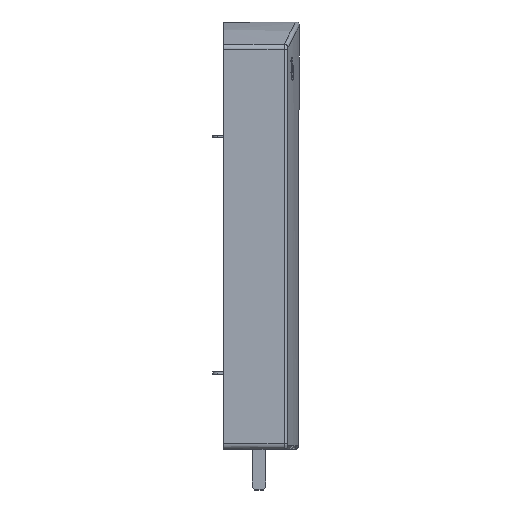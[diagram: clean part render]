
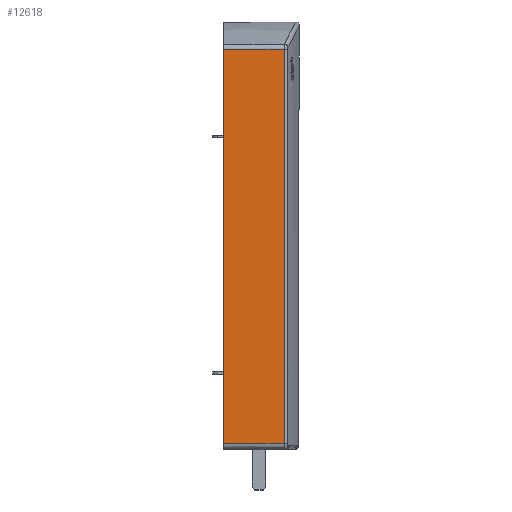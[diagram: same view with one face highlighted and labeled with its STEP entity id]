
A CAD part, top view. The second image highlights one B-rep face of the part: STEP entity #12618.
In plain terms, the highlighted planar face has unit normal (0, 0, 1).
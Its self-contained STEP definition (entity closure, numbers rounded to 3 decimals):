
#932 = EDGE_LOOP ( 'NONE', ( #12402, #12403, #12404, #12405 ) ) ;
#2833 = VECTOR ( 'NONE', #3641, 1000. ) ;
#2844 = VECTOR ( 'NONE', #3634, 1000. ) ;
#2845 = VECTOR ( 'NONE', #3646, 1000. ) ;
#2873 = AXIS2_PLACEMENT_3D ( 'NONE', #6706, #6720, #6721 ) ;
#3355 = CARTESIAN_POINT ( 'NONE',  ( 0., -6.062, 22.754 ) ) ;
#3356 = CARTESIAN_POINT ( 'NONE',  ( 0., 207.096, 22.754 ) ) ;
#3429 = CARTESIAN_POINT ( 'NONE',  ( 32.709, 207.096, 22.754 ) ) ;
#3538 = EDGE_CURVE ( 'NONE', #12488, #12489, #8526, .T. ) ;
#3613 = LINE ( 'NONE', #3632, #2844 ) ;
#3615 = LINE ( 'NONE', #3643, #2845 ) ;
#3632 = CARTESIAN_POINT ( 'NONE',  ( 41.001, -6.062, 22.754 ) ) ;
#3634 = DIRECTION ( 'NONE',  ( -1., 0., 0. ) ) ;
#3636 = LINE ( 'NONE', #3639, #2833 ) ;
#3639 = CARTESIAN_POINT ( 'NONE',  ( 32.709, 207.096, 22.754 ) ) ;
#3641 = DIRECTION ( 'NONE',  ( 0., 1., 0. ) ) ;
#3643 = CARTESIAN_POINT ( 'NONE',  ( 41.001, 207.096, 22.754 ) ) ;
#3646 = DIRECTION ( 'NONE',  ( -1., 0., 0. ) ) ;
#6706 = CARTESIAN_POINT ( 'NONE',  ( 41.001, 207.096, 22.754 ) ) ;
#6715 = FACE_OUTER_BOUND ( 'NONE', #932, .T. ) ;
#6719 = PLANE ( 'NONE',  #2873 ) ;
#6720 = DIRECTION ( 'NONE',  ( 0., 0., 1. ) ) ;
#6721 = DIRECTION ( 'NONE',  ( 1., 0., 0. ) ) ;
#8526 = LINE ( 'NONE', #8527, #9118 ) ;
#8527 = CARTESIAN_POINT ( 'NONE',  ( 0., 207.096, 22.754 ) ) ;
#8528 = DIRECTION ( 'NONE',  ( 0., 1., 0. ) ) ;
#9118 = VECTOR ( 'NONE', #8528, 1000. ) ;
#9264 = CARTESIAN_POINT ( 'NONE',  ( 32.709, -6.062, 22.754 ) ) ;
#12402 = ORIENTED_EDGE ( 'NONE', *, *, #12594, .F. ) ;
#12403 = ORIENTED_EDGE ( 'NONE', *, *, #12595, .T. ) ;
#12404 = ORIENTED_EDGE ( 'NONE', *, *, #12596, .T. ) ;
#12405 = ORIENTED_EDGE ( 'NONE', *, *, #3538, .F. ) ;
#12488 = VERTEX_POINT ( 'NONE', #3355 ) ;
#12489 = VERTEX_POINT ( 'NONE', #3356 ) ;
#12562 = VERTEX_POINT ( 'NONE', #3429 ) ;
#12594 = EDGE_CURVE ( 'NONE', #13016, #12488, #3613, .T. ) ;
#12595 = EDGE_CURVE ( 'NONE', #13016, #12562, #3636, .T. ) ;
#12596 = EDGE_CURVE ( 'NONE', #12562, #12489, #3615, .T. ) ;
#12618 = ADVANCED_FACE ( 'NONE', ( #6715 ), #6719, .T. ) ;
#13016 = VERTEX_POINT ( 'NONE', #9264 ) ;
